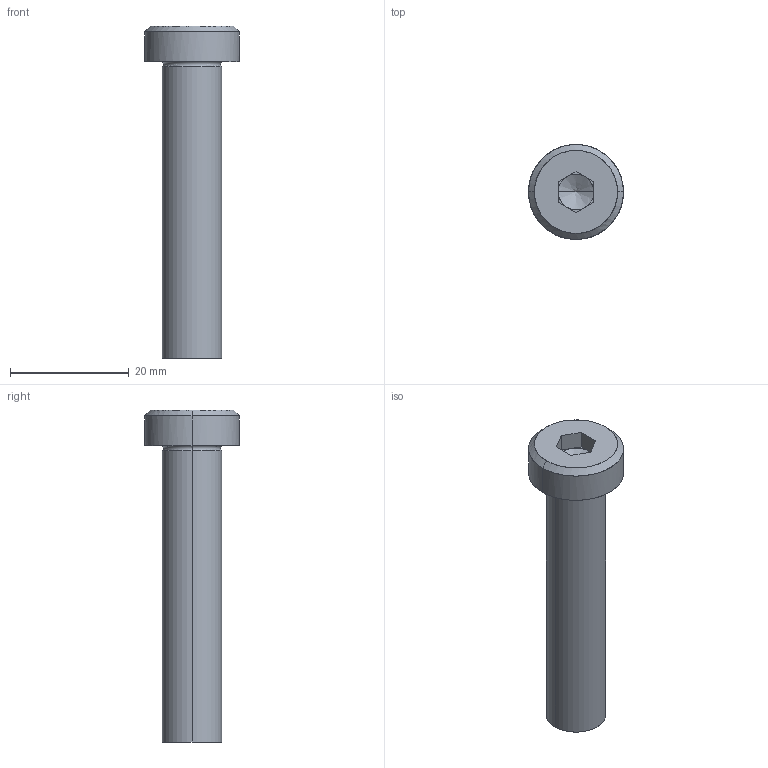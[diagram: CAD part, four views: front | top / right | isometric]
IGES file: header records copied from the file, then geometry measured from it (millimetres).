
Global section: file name: E:\UnigraphicsGraphicData\MISUMI_PRESS-PARTS\IGES\3d_sbtcn10-50_05143_r00.igs; native system: NX V5.0; preprocessor: UGS NX IGES V5.0; author: MISUMI; date: 20110105.162453; units: millimetre
Bounding box: 16 x 16 x 56 mm (x, y, z)
Surface area: 2629.5 mm2 (no closed solid volume)
Topology: 0 solids, 0 shells, 34 faces, 180 edges, 176 vertices
Faces by surface type: bspline 34
